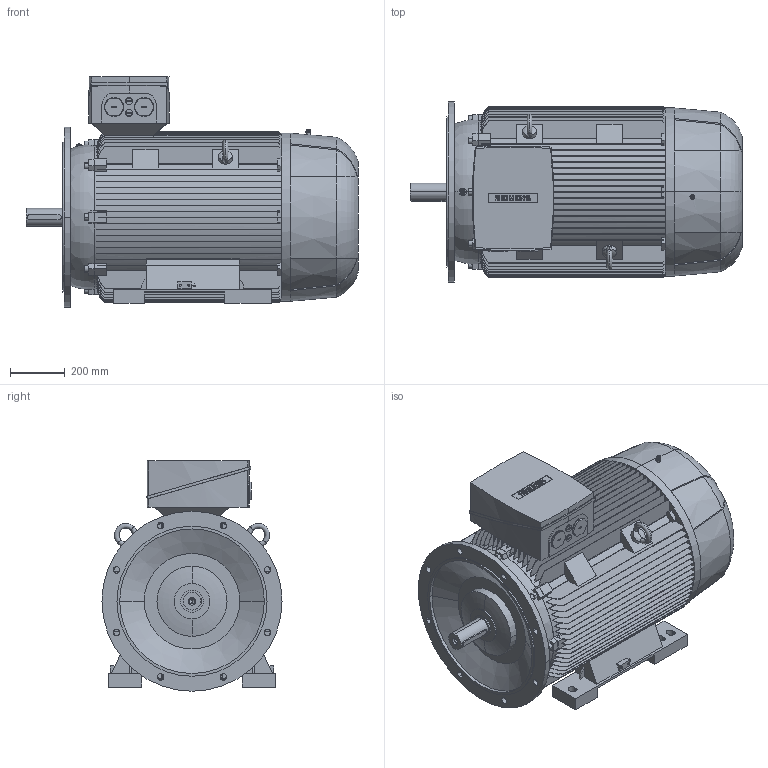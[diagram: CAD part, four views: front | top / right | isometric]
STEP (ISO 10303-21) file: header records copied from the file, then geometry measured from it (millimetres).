
FILE_DESCRIPTION(('STEP AP214'),'1');
FILE_NAME('cctmp_F50CF1E4-6BE9-4546-A1C8-4E2DC4A554E9_2021_11_16_21_13_45_429..stp','2021-11-16T20:13:46',('SIEMENS A&D'),('CADClick - www.CADClick.com'),'Spatial InterOp 3D',' ','unknown authorization');
FILE_SCHEMA(('AUTOMOTIVE_DESIGN'));
Length unit declared in the file: millimetre
Products named in the file (1): 1
Bounding box: 1217 x 660 x 845 mm (x, y, z)
Volume: 281193353.4 mm3; surface area: 8478714 mm2
Topology: 7 solids, 7 shells, 1377 faces, 3900 edges, 2575 vertices
Faces by surface type: plane 878, cylinder 297, torus 174, cone 28
Entity records: 64370 total; most frequent: CARTESIAN_POINT 17581, ORIENTED_EDGE 7780, DIRECTION 7171, EDGE_CURVE 3890, VERTEX_POINT 2575, AXIS2_PLACEMENT_3D 2444, LINE 2283, VECTOR 2283
